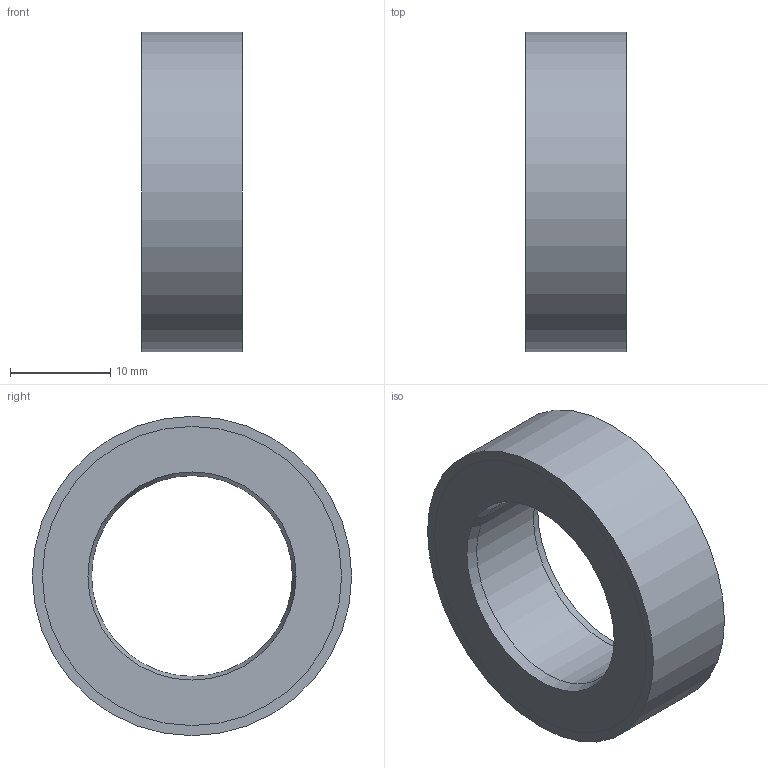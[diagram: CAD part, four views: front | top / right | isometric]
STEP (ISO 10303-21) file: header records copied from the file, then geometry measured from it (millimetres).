
FILE_DESCRIPTION(/* description */ ('STEP AP214','CAx-IF Rec.Pracs.---Representation and Presentation of Product Manufacturing Information (PMI)---4.0---2014-10-13'),/* implementation_level */ '2;1');
FILE_NAME(/* name */ 'C:\DESKTOP\홈페이지용 엔코더 3D 데이타 및 사진관련 자료\Bearingless type\Radial Type\RH31-20-32-31-1.28-HN-AL\RH31-20-32-31-1.28-HN-AL.stp',/* time_stamp */ '2023-06-05T20:50:44+08:00',/* author */ ('hnckhn'),/* organization */ (''),/* preprocessor_version */ 'ST-DEVELOPER v18.1',/* originating_system */ 'Autodesk Inventor 2021',/* authorisation */ '');
FILE_SCHEMA (('AP242_MANAGED_MODEL_BASED_3D_ENGINEERING_MIM_LF { 1 0 10303 442 1 1 4 }'));
Length unit declared in the file: millimetre
Products named in the file (3): MR031E; MR031E-MN00426-00; ferite
Assembly tree (2 placements, depth 2):
  MR031E
    MR031E-MN00426-00
    ferite
Bounding box: 10 x 31.8 x 31.8 mm (x, y, z)
Volume: 4777.5 mm3; surface area: 4423.8 mm2
Topology: 2 solids, 2 shells, 10 faces, 26 edges, 20 vertices
Faces by surface type: cylinder 4, plane 4, cone 2
Full cylindrical faces by diameter (mm): 20 x1, 29.8 x2, 31.8 x1
Entity records: 661 total; most frequent: DIRECTION 130, CARTESIAN_POINT 96, AXIS2_PLACEMENT_3D 62, ORIENTED_EDGE 52, EDGE_CURVE 26, CIRCLE 20, VERTEX_POINT 20, EDGE_LOOP 14
